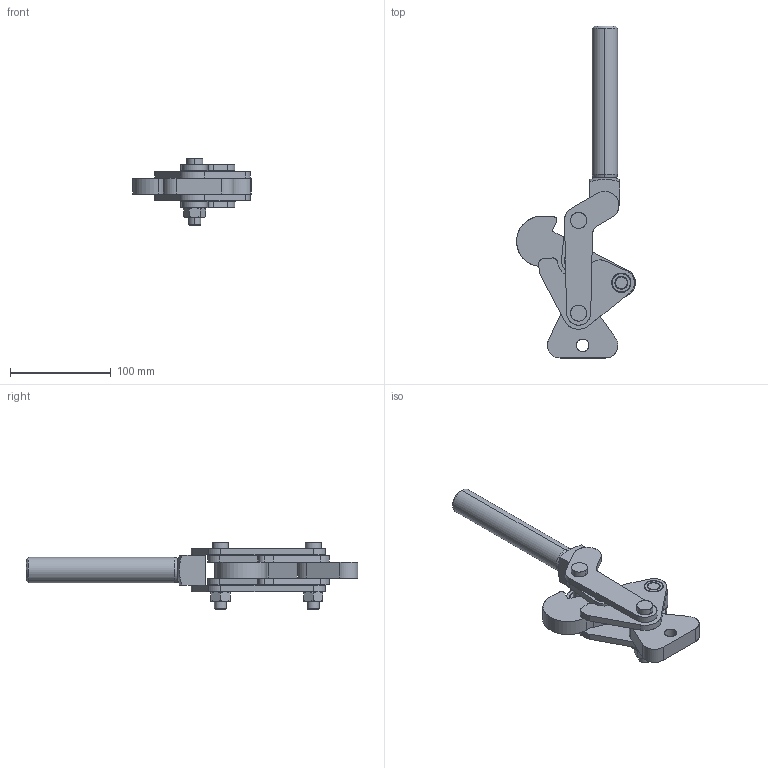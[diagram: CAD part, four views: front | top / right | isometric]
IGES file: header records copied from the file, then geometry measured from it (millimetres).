
Start section: SolidWorks IGES file using analytic representation for surfaces
Global section: file name: C:\Projetos\Grampos\KFU\KFU-06\KFU-06 R\KFU-06 R.igs; native system: SolidWorks 2011; preprocessor: SolidWorks 2011; author: Usuario; date: 110512.123610; units: millimetre
Bounding box: 117.97 x 329.5 x 66.4 mm (x, y, z)
Surface area: 107911 mm2 (no closed solid volume)
Topology: 0 solids, 0 shells, 315 faces, 5442 edges, 5439 vertices
Faces by surface type: revolution 216, bspline 99
